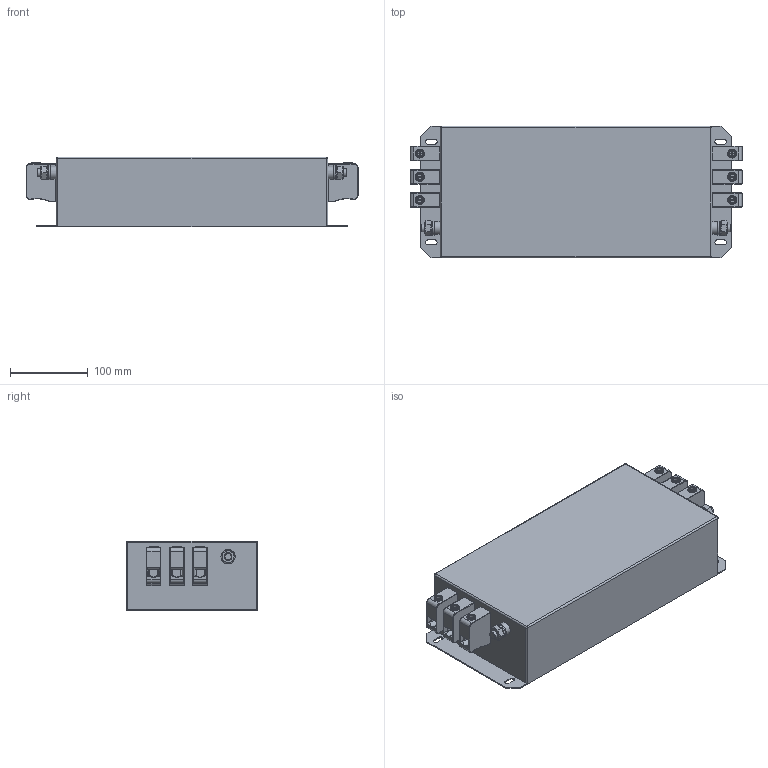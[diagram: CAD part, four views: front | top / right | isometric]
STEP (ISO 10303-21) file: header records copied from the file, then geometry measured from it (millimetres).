
FILE_DESCRIPTION((''),'2;1');
FILE_NAME('L:\INVENTOR_Projektedaten\HousingDesign\FN351H-80-34.stp','2012-10-16T14:31:29',('Samuel.Meier'),(''),'Autodesk Inventor 2010','Autodesk Inventor 2010','');
FILE_SCHEMA(('AUTOMOTIVE_DESIGN { 1 2 10303 214 0 1 1 1 }'));
Length unit declared in the file: millimetre
Products named in the file (1): Bauteil7
Bounding box: 428 x 170 x 90 mm (x, y, z)
Volume: 5564579.5 mm3; surface area: 265847.9 mm2
Topology: 1 solids, 1 shells, 624 faces, 1514 edges, 890 vertices
Faces by surface type: bspline 305, plane 142, cylinder 121, torus 33, sphere 16, cone 7
Full cylindrical faces by diameter (mm): 7 x3, 10 x4, 10.5 x2, 11.6 x3, 16.5 x1, 18 x2
Entity records: 22005 total; most frequent: CARTESIAN_POINT 7985, ORIENTED_EDGE 2852, DIRECTION 2584, EDGE_CURVE 1426, AXIS2_PLACEMENT_3D 934, VERTEX_POINT 884, VECTOR 716, LINE 716
